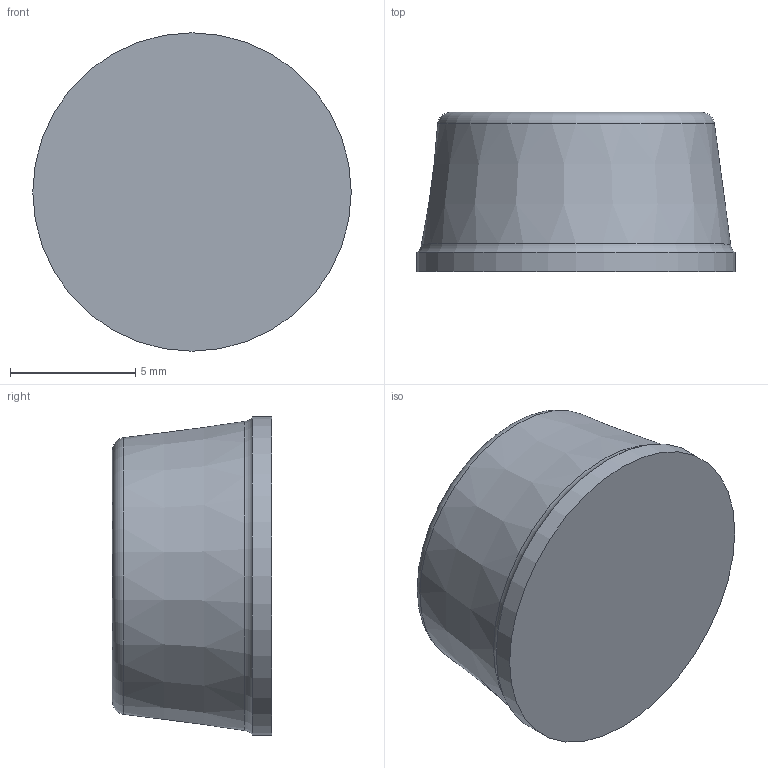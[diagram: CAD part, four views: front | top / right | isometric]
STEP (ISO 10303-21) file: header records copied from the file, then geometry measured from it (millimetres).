
FILE_DESCRIPTION(/* description */ (''),/* implementation_level */ '2;1');
FILE_NAME(/* name */ 'C:/Users/Mark/Downloads/STEP Files/BS06.step',/* time_stamp */ '2020-02-10T10:56:59-05:00',/* author */ (''),/* organization */ (''),/* preprocessor_version */ 'ST-DEVELOPER v18',/* originating_system */ 'Autodesk Translation Framework v8.12.0.6',/* authorisation */ '');
FILE_SCHEMA (('AUTOMOTIVE_DESIGN { 1 0 10303 214 3 1 1 }'));
Length unit declared in the file: inch
Products named in the file (1): BS06
Bounding box: 12.7 x 6.35 x 12.7 mm (x, y, z)
Volume: 694 mm3; surface area: 453.8 mm2
Topology: 1 solids, 1 shells, 6 faces, 12 edges, 8 vertices
Faces by surface type: torus 2, plane 2, cone 1, cylinder 1
Full cylindrical faces by diameter (mm): 12.7 x1
Entity records: 201 total; most frequent: DIRECTION 36, CARTESIAN_POINT 27, ORIENTED_EDGE 24, AXIS2_PLACEMENT_3D 17, EDGE_CURVE 12, CIRCLE 10, VERTEX_POINT 8, FACE_OUTER_BOUND 6
